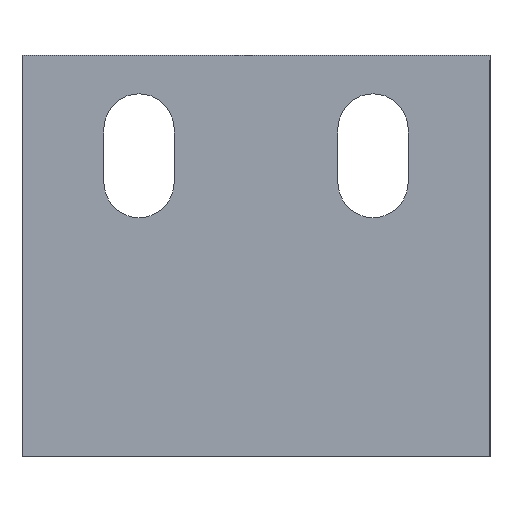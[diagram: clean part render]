
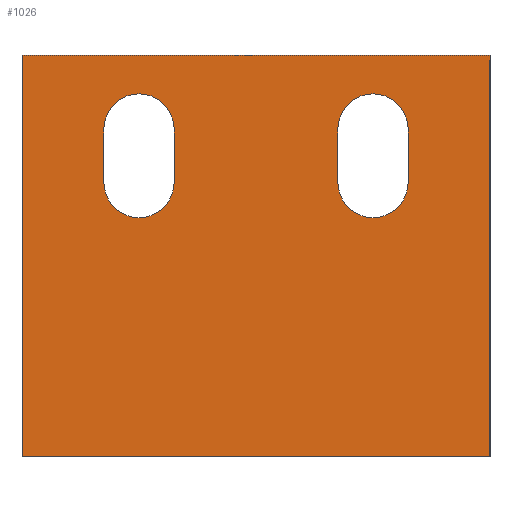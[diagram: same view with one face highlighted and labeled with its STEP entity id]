
A CAD part, front view. The second image highlights one B-rep face of the part: STEP entity #1026.
In plain terms, the highlighted planar face has unit normal (0, -1, 0).
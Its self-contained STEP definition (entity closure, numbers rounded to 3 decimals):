
#488=CIRCLE('',#985,5.25);
#489=CIRCLE('',#986,5.25);
#490=CIRCLE('',#987,5.25);
#491=CIRCLE('',#988,5.25);
#500=ORIENTED_EDGE('',*,*,#692,.T.);
#501=ORIENTED_EDGE('',*,*,#693,.F.);
#502=ORIENTED_EDGE('',*,*,#694,.F.);
#503=ORIENTED_EDGE('',*,*,#695,.T.);
#504=ORIENTED_EDGE('',*,*,#696,.T.);
#505=ORIENTED_EDGE('',*,*,#697,.T.);
#506=ORIENTED_EDGE('',*,*,#698,.T.);
#507=ORIENTED_EDGE('',*,*,#699,.T.);
#508=ORIENTED_EDGE('',*,*,#700,.T.);
#509=ORIENTED_EDGE('',*,*,#701,.T.);
#510=ORIENTED_EDGE('',*,*,#702,.T.);
#511=ORIENTED_EDGE('',*,*,#703,.T.);
#592=VECTOR('',#796,1.);
#593=VECTOR('',#797,1.);
#594=VECTOR('',#798,1.);
#595=VECTOR('',#799,1.);
#596=VECTOR('',#802,1.);
#597=VECTOR('',#805,1.);
#598=VECTOR('',#808,1.);
#599=VECTOR('',#811,1.);
#626=LINE('',#891,#592);
#627=LINE('',#893,#593);
#628=LINE('',#895,#594);
#629=LINE('',#896,#595);
#630=LINE('',#901,#596);
#631=LINE('',#904,#597);
#632=LINE('',#909,#598);
#633=LINE('',#912,#599);
#660=VERTEX_POINT('',#889);
#661=VERTEX_POINT('',#890);
#662=VERTEX_POINT('',#892);
#663=VERTEX_POINT('',#894);
#664=VERTEX_POINT('',#897);
#665=VERTEX_POINT('',#898);
#666=VERTEX_POINT('',#900);
#667=VERTEX_POINT('',#902);
#668=VERTEX_POINT('',#905);
#669=VERTEX_POINT('',#906);
#670=VERTEX_POINT('',#908);
#671=VERTEX_POINT('',#910);
#692=EDGE_CURVE('',#660,#661,#626,.T.);
#693=EDGE_CURVE('',#662,#661,#627,.T.);
#694=EDGE_CURVE('',#663,#662,#628,.T.);
#695=EDGE_CURVE('',#663,#660,#629,.T.);
#696=EDGE_CURVE('',#664,#665,#488,.T.);
#697=EDGE_CURVE('',#665,#666,#630,.T.);
#698=EDGE_CURVE('',#666,#667,#489,.T.);
#699=EDGE_CURVE('',#667,#664,#631,.T.);
#700=EDGE_CURVE('',#668,#669,#490,.T.);
#701=EDGE_CURVE('',#669,#670,#632,.T.);
#702=EDGE_CURVE('',#670,#671,#491,.T.);
#703=EDGE_CURVE('',#671,#668,#633,.T.);
#738=EDGE_LOOP('',(#500,#501,#502,#503));
#739=EDGE_LOOP('',(#504,#505,#506,#507));
#740=EDGE_LOOP('',(#508,#509,#510,#511));
#766=FACE_BOUND('',#738,.T.);
#767=FACE_BOUND('',#739,.T.);
#768=FACE_BOUND('',#740,.T.);
#794=DIRECTION('',(0.,-1.,0.));
#795=DIRECTION('',(-1.,0.,0.));
#796=DIRECTION('',(-70.,0.,0.));
#797=DIRECTION('',(0.,0.,60.));
#798=DIRECTION('',(-70.,0.,0.));
#799=DIRECTION('',(0.,0.,60.));
#800=DIRECTION('',(0.,1.,0.));
#801=DIRECTION('',(0.,0.,-5.25));
#802=DIRECTION('',(0.,0.,8.));
#803=DIRECTION('',(0.,1.,0.));
#804=DIRECTION('',(0.,0.,-5.25));
#805=DIRECTION('',(0.,0.,-8.));
#806=DIRECTION('',(0.,1.,0.));
#807=DIRECTION('',(0.,0.,-5.25));
#808=DIRECTION('',(0.,0.,8.));
#809=DIRECTION('',(0.,1.,0.));
#810=DIRECTION('',(0.,0.,-5.25));
#811=DIRECTION('',(0.,0.,-8.));
#888=CARTESIAN_POINT('',(70.,-60.,60.));
#889=CARTESIAN_POINT('',(70.,-60.,60.));
#890=CARTESIAN_POINT('',(0.,-60.,60.));
#891=CARTESIAN_POINT('',(70.,-60.,60.));
#892=CARTESIAN_POINT('',(0.,-60.,0.));
#893=CARTESIAN_POINT('',(0.,-60.,0.));
#894=CARTESIAN_POINT('',(70.,-60.,0.));
#895=CARTESIAN_POINT('',(70.,-60.,0.));
#896=CARTESIAN_POINT('',(70.,-60.,0.));
#897=CARTESIAN_POINT('',(22.75,-60.,41.));
#898=CARTESIAN_POINT('',(12.25,-60.,41.));
#899=CARTESIAN_POINT('',(17.5,-60.,41.));
#900=CARTESIAN_POINT('',(12.25,-60.,49.));
#901=CARTESIAN_POINT('',(12.25,-60.,41.));
#902=CARTESIAN_POINT('',(22.75,-60.,49.));
#903=CARTESIAN_POINT('',(17.5,-60.,49.));
#904=CARTESIAN_POINT('',(22.75,-60.,49.));
#905=CARTESIAN_POINT('',(57.75,-60.,41.));
#906=CARTESIAN_POINT('',(47.25,-60.,41.));
#907=CARTESIAN_POINT('',(52.5,-60.,41.));
#908=CARTESIAN_POINT('',(47.25,-60.,49.));
#909=CARTESIAN_POINT('',(47.25,-60.,41.));
#910=CARTESIAN_POINT('',(57.75,-60.,49.));
#911=CARTESIAN_POINT('',(52.5,-60.,49.));
#912=CARTESIAN_POINT('',(57.75,-60.,49.));
#984=AXIS2_PLACEMENT_3D('',#888,#794,#795);
#985=AXIS2_PLACEMENT_3D('',#899,#800,#801);
#986=AXIS2_PLACEMENT_3D('',#903,#803,#804);
#987=AXIS2_PLACEMENT_3D('',#907,#806,#807);
#988=AXIS2_PLACEMENT_3D('',#911,#809,#810);
#1014=PLANE('',#984);
#1026=ADVANCED_FACE('',(#766,#767,#768),#1014,.T.);
